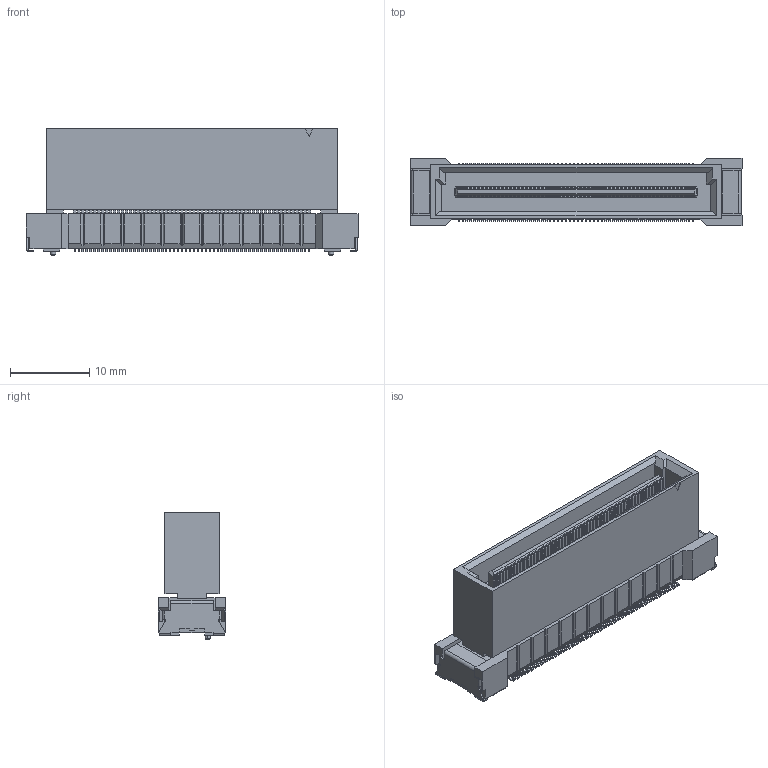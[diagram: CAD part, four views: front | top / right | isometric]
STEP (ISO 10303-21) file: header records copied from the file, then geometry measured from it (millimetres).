
FILE_DESCRIPTION(('Creo Elements/Direct Modeling STEP Export'),'2;1');
FILE_NAME('P3E104_DT01-120FS-10-T.stp','2022-02-25T17:22:04',(''),(''),'Creo Elements/Direct Modeling STEP processor for AP214 (Solid Model)','Creo Elements/Direct Modeling 20.4A 18-Oct-2021 (C) Parametric Technology GmbH','');
FILE_SCHEMA(('AUTOMOTIVE_DESIGN { 1 0 10303 214 1 1 1 1 }'));
Products named in the file (2): P3E104_DT01-120FS-10-T
Assembly tree (1 placements, depth 2):
  P3E104_DT01-120FS-10-T
    P3E104_DT01-120FS-10-T
Bounding box: 41.8 x 8.5 x 15.95 mm (x, y, z)
Volume: 3331.3 mm3; surface area: 3259.7 mm2
Topology: 1 solids, 1 shells, 3359 faces, 9431 edges, 6196 vertices
Faces by surface type: plane 3085, cylinder 270, cone 4
Entity records: 104434 total; most frequent: ORIENTED_EDGE 18862, CARTESIAN_POINT 18474, DIRECTION 16051, EDGE_CURVE 9431, VECTOR 8505, LINE 8505, VERTEX_POINT 6196, AXIS2_PLACEMENT_3D 3773
